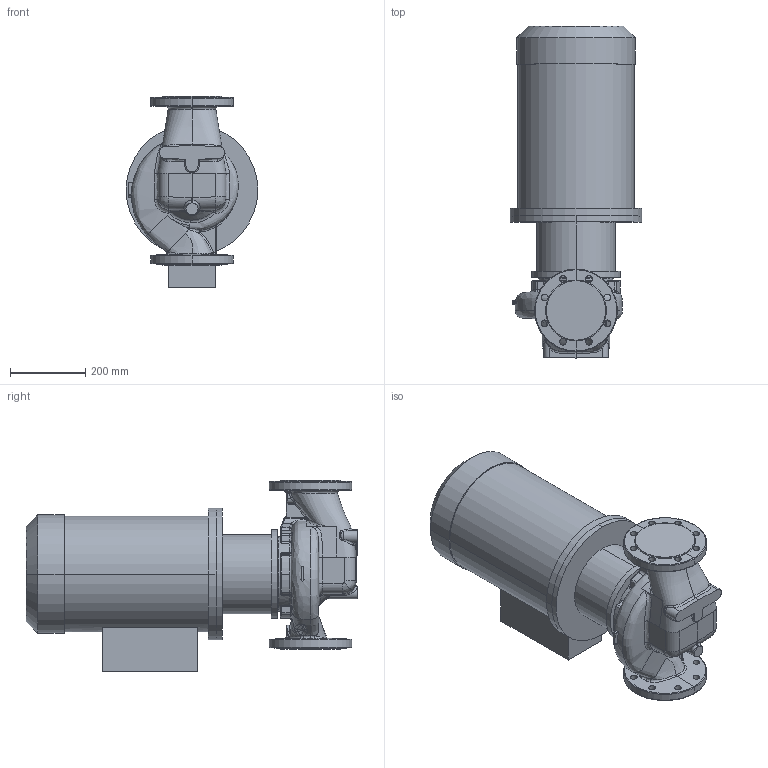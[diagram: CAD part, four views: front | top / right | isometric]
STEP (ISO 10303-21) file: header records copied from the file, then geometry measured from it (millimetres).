
FILE_DESCRIPTION (( 'STEP AP214' ), '1' );
FILE_NAME ('KRL 100-160-2-15.STEP', '2026-04-06T08:09:16', ( '' ), ( '' ), 'SwSTEP 2.0', 'SolidWorks 2016', '' );
FILE_SCHEMA (( 'AUTOMOTIVE_DESIGN' ));
Length unit declared in the file: millimetre
Products named in the file (1): KRL 100-160-2-15
Bounding box: 350 x 882.3 x 510 mm (x, y, z)
Volume: 61175435.3 mm3; surface area: 1665825.1 mm2
Topology: 4 solids, 4 shells, 554 faces, 1355 edges, 813 vertices
Faces by surface type: bspline 255, cylinder 138, plane 85, cone 30, torus 28, sphere 18
Entity records: 55041 total; most frequent: CARTESIAN_POINT 38076, ORIENTED_EDGE 2686, DIRECTION 1647, EDGE_CURVE 1343, VERTEX_POINT 813, AXIS2_PLACEMENT_3D 702, B_SPLINE_CURVE_WITH_KNOTS 639, EDGE_LOOP 602
